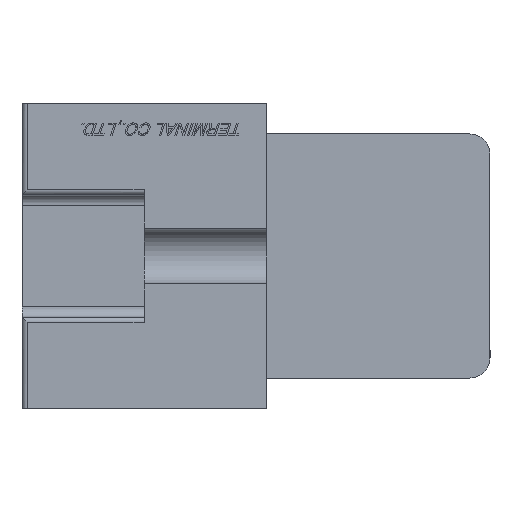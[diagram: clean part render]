
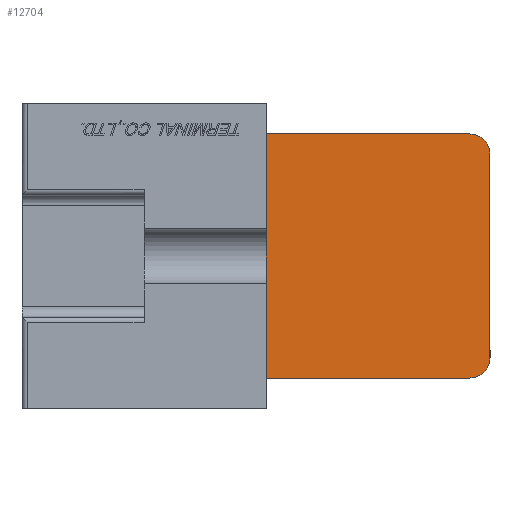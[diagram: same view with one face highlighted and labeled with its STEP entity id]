
A CAD part, left-side view. The second image highlights one B-rep face of the part: STEP entity #12704.
In plain terms, the highlighted planar face has unit normal (-1, 0, 0).
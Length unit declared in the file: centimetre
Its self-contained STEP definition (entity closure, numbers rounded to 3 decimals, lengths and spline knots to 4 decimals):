
#699=PLANE('',#22920);
#1042=CIRCLE('',#22861,0.2);
#1044=CIRCLE('',#22865,0.2);
#1957=VERTEX_POINT('',#18257);
#1958=VERTEX_POINT('',#18259);
#1969=VERTEX_POINT('',#18350);
#1970=VERTEX_POINT('',#18354);
#2015=VERTEX_POINT('',#18589);
#2016=VERTEX_POINT('',#18591);
#3275=VECTOR('',#14141,1.);
#3319=VECTOR('',#14282,1.);
#3320=VECTOR('',#14283,1.);
#3321=VECTOR('',#14284,1.);
#4298=LINE('',#18349,#3275);
#4342=LINE('',#18588,#3319);
#4343=LINE('',#18590,#3320);
#4344=LINE('',#18592,#3321);
#5530=EDGE_CURVE('',#1957,#1958,#1042,.T.);
#5543=EDGE_CURVE('',#1969,#1958,#4298,.T.);
#5545=EDGE_CURVE('',#1969,#1970,#1044,.T.);
#5621=EDGE_CURVE('',#2015,#1957,#4342,.T.);
#5622=EDGE_CURVE('',#2016,#2015,#4343,.T.);
#5623=EDGE_CURVE('',#2016,#1970,#4344,.T.);
#8278=ORIENTED_EDGE('',*,*,#5530,.F.);
#8279=ORIENTED_EDGE('',*,*,#5621,.F.);
#8280=ORIENTED_EDGE('',*,*,#5622,.F.);
#8281=ORIENTED_EDGE('',*,*,#5623,.T.);
#8282=ORIENTED_EDGE('',*,*,#5545,.F.);
#8283=ORIENTED_EDGE('',*,*,#5543,.T.);
#10904=EDGE_LOOP('',(#8278,#8279,#8280,#8281,#8282,#8283));
#11823=FACE_BOUND('',#10904,.T.);
#12704=ADVANCED_FACE('',(#11823),#699,.T.);
#14128=DIRECTION('',(1.,0.,0.));
#14129=DIRECTION('',(0.,-0.141,0.141));
#14141=DIRECTION('',(0.,0.,1.));
#14145=DIRECTION('',(1.,0.,0.));
#14146=DIRECTION('',(0.,-0.141,-0.141));
#14281=DIRECTION('',(-1.,0.,0.));
#14282=DIRECTION('',(0.,-1.,0.));
#14283=DIRECTION('',(0.,0.,1.));
#14284=DIRECTION('',(0.,-1.,0.));
#18257=CARTESIAN_POINT('',(-4.15,-0.695,1.2));
#18258=CARTESIAN_POINT('',(-4.15,-0.695,1.));
#18259=CARTESIAN_POINT('',(-4.15,-0.895,1.));
#18349=CARTESIAN_POINT('',(-4.15,-0.895,-1.2));
#18350=CARTESIAN_POINT('',(-4.15,-0.895,-1.));
#18353=CARTESIAN_POINT('',(-4.15,-0.695,-1.));
#18354=CARTESIAN_POINT('',(-4.15,-0.695,-1.2));
#18587=CARTESIAN_POINT('',(-4.15,1.305,0.));
#18588=CARTESIAN_POINT('',(-4.15,1.305,1.2));
#18589=CARTESIAN_POINT('',(-4.15,1.305,1.2));
#18590=CARTESIAN_POINT('',(-4.15,1.305,0.));
#18591=CARTESIAN_POINT('',(-4.15,1.305,-1.2));
#18592=CARTESIAN_POINT('',(-4.15,1.305,-1.2));
#22861=AXIS2_PLACEMENT_3D('',#18258,#14128,#14129);
#22865=AXIS2_PLACEMENT_3D('',#18353,#14145,#14146);
#22920=AXIS2_PLACEMENT_3D('',#18587,#14281,$);
